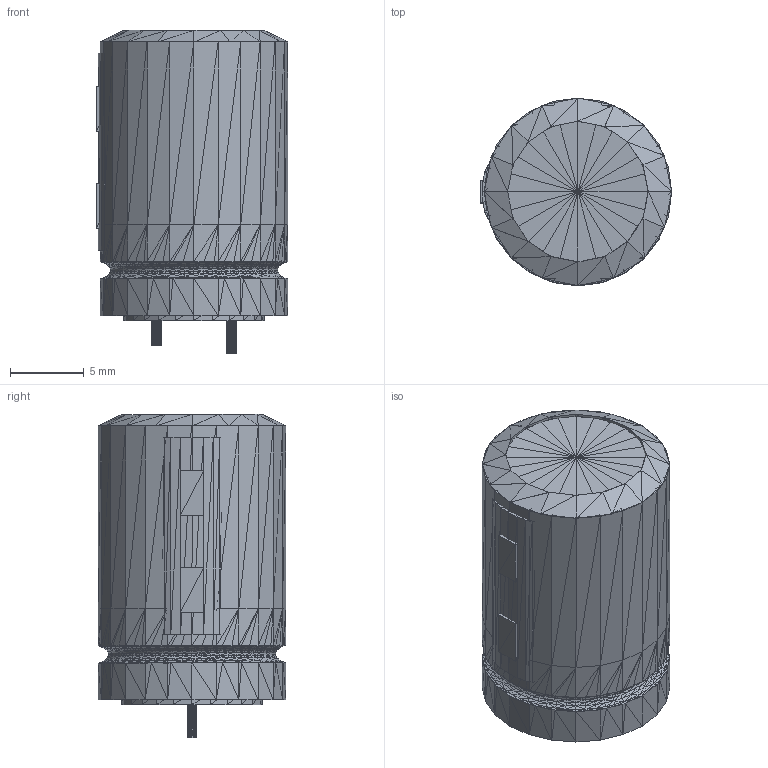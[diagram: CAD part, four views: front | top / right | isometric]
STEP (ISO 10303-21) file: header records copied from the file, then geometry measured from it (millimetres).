
FILE_DESCRIPTION(('HOOPS Exchange Step'),'2;1');
FILE_NAME('***.stp');
FILE_SCHEMA( ('AP242_MANAGED_MODEL_BASED_3D_ENGINEERING_MIM_LF {1 0 10303 442 1 1 4 }') );
Length unit declared in the file: inch
Products named in the file (11): CAPOLV500X750MIL_2; CAPOLV500X750MIL_3; CAPOLV500X750MIL_4; CAPOLV500X750MIL_5; CAPOLV500X750MIL_6; CAPOLV500X750MIL_7; CAPOLV500X750MIL_8; CAPOLV500X750MIL_9; CAPOLV500X750MIL_10; CAPOLV500X750MIL_11; CAPOLV500X750MIL
Assembly tree (10 placements, depth 2):
  CAPOLV500X750MIL
    CAPOLV500X750MIL_2
    CAPOLV500X750MIL_3
    CAPOLV500X750MIL_4
    CAPOLV500X750MIL_5
    CAPOLV500X750MIL_6
    CAPOLV500X750MIL_7
    CAPOLV500X750MIL_8
    CAPOLV500X750MIL_9
    CAPOLV500X750MIL_10
    CAPOLV500X750MIL_11
Bounding box: 12.96 x 12.7 x 21.9 mm (x, y, z)
Volume: 2504.6 mm3; surface area: 1917.2 mm2
Topology: 10 solids, 10 shells, 2004 faces, 3006 edges, 1020 vertices
Faces by surface type: plane 2004
Entity records: 39590 total; most frequent: DIRECTION 7058, CARTESIAN_POINT 6052, ORIENTED_EDGE 6012, VECTOR 3006, LINE 3006, EDGE_CURVE 3006, AXIS2_PLACEMENT_3D 2026, PLANE 2004
